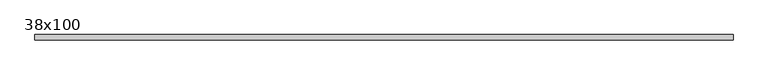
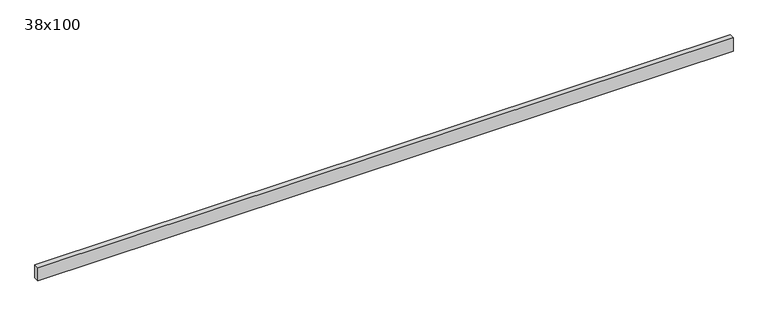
"""IFC4 building model written with IfcOpenShell, lengths in millimetres: beam geometry, Poutre - Bois de construction de dimensions courantes : 38x100."""

from ifc_helpers import new_model, si_unit, frame, origin, place, context, project, spatial, polyline, outline, extrude, source, transform, mapped, element, save


def beam_38x100_1154de02(model_context):
    return source(origin(), model_context, "Body", "SweptSolid", [
        extrude(outline(polyline([(2397.5, 19.05), (2397.5, -19.05), (-2557.5, -19.05), (-2557.5, 19.05), (2397.5, 19.05)])), frame((0.0, 0.0, -50.0), z_axis=(0.0, 0.0, 1.0), x_axis=(1.0, 0.0, 0.0)), (0.0, 0.0, 1.0), 100.0),
    ])


if __name__ == "__main__":
    model = new_model("IFC4")
    model_context = context("Model", 3, world=origin())
    ifc_project = project(units=[si_unit("LENGTHUNIT", "METRE", prefix="MILLI")], contexts=[model_context])
    site = spatial("IfcSite", under=ifc_project)
    building = spatial("IfcBuilding", under=site)
    placement = place(None, origin())
    beam_38x100_shape = beam_38x100_1154de02(model_context)
    element("IfcBeam", 1, ObjectType="Poutre - Bois de construction de dimensions courantes : 38x100", at=placement, inside=building, context=model_context, shape_type="MappedRepresentation", body=[
        mapped(beam_38x100_shape, transform((0.0, 0.0, 0.0), x_axis=(1.0, 0.0, 0.0), y_axis=(0.0, 1.0, 0.0), z_axis=(0.0, 0.0, 1.0))),
    ])
    save(model, "model.ifc")
